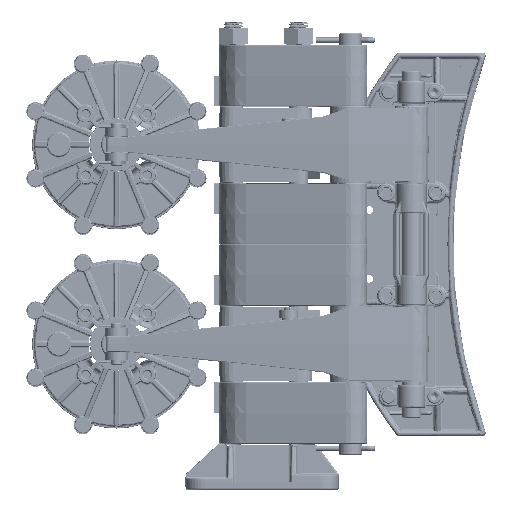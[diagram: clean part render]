
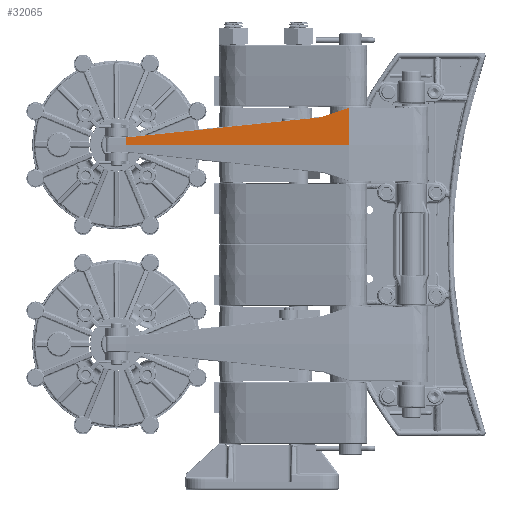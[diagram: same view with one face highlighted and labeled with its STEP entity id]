
A CAD part, top view. The second image highlights one B-rep face of the part: STEP entity #32065.
In plain terms, the highlighted planar face has unit normal (-0.091, 0.018, 0.996).
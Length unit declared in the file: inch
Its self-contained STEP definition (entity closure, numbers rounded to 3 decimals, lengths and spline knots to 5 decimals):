
#102 = FACE_OUTER_BOUND ( 'NONE', #312098, .T. ) ;
#15646 = VECTOR ( 'NONE', #111233, 39.37008 ) ;
#24683 = LINE ( 'NONE', #82167, #15646 ) ;
#25587 = VECTOR ( 'NONE', #257891, 39.37008 ) ;
#27995 =( BOUNDED_CURVE ( )  B_SPLINE_CURVE ( 3, ( #242447, #184469, #271527, #98478 ),
 .UNSPECIFIED., .F., .T. ) 
 B_SPLINE_CURVE_WITH_KNOTS ( ( 4, 4 ),
 ( 6.28254, 6.28321 ),
 .UNSPECIFIED. ) 
 CURVE ( )  GEOMETRIC_REPRESENTATION_ITEM ( )  RATIONAL_B_SPLINE_CURVE ( ( 1., 1., 1., 1. ) ) 
 REPRESENTATION_ITEM ( '' )  );
#30586 = ORIENTED_EDGE ( 'NONE', *, *, #244321, .T. ) ;
#32065 = ADVANCED_FACE ( 'NONE', ( #102 ), #305955, .T. ) ;
#40755 = CARTESIAN_POINT ( 'NONE',  ( -6.66061, 3.25, 3.19642 ) ) ;
#47214 = VECTOR ( 'NONE', #173085, 39.37008 ) ;
#60219 = ORIENTED_EDGE ( 'NONE', *, *, #295279, .F. ) ;
#63170 = VERTEX_POINT ( 'NONE', #73700 ) ;
#73700 = CARTESIAN_POINT ( 'NONE',  ( 0.62798, 3.25, 3.86435 ) ) ;
#82167 = CARTESIAN_POINT ( 'NONE',  ( 0.62798, 3.25022, 3.86435 ) ) ;
#98478 = CARTESIAN_POINT ( 'NONE',  ( -6.66035, 3.48035, 3.1924 ) ) ;
#99195 = DIRECTION ( 'NONE',  ( -0.001, -1., 0.017 ) ) ;
#102491 = LINE ( 'NONE', #228882, #25587 ) ;
#105342 = DIRECTION ( 'NONE',  ( 0.996, 0., 0.091 ) ) ;
#108780 = EDGE_CURVE ( 'NONE', #162615, #203401, #341747, .T. ) ;
#111233 = DIRECTION ( 'NONE',  ( 0., -1., 0.018 ) ) ;
#115056 = LINE ( 'NONE', #342418, #47214 ) ;
#123003 = LINE ( 'NONE', #278379, #276628 ) ;
#123138 = ORIENTED_EDGE ( 'NONE', *, *, #166865, .T. ) ;
#125955 = EDGE_CURVE ( 'NONE', #203401, #63170, #123003, .T. ) ;
#126395 = ORIENTED_EDGE ( 'NONE', *, *, #295337, .T. ) ;
#136723 = VERTEX_POINT ( 'NONE', #147788 ) ;
#147788 = CARTESIAN_POINT ( 'NONE',  ( -6.66035, 3.48036, 3.1924 ) ) ;
#162615 = VERTEX_POINT ( 'NONE', #300798 ) ;
#162971 = ORIENTED_EDGE ( 'NONE', *, *, #125955, .T. ) ;
#163233 = DIRECTION ( 'NONE',  ( -0.091, 0.017, 0.996 ) ) ;
#166865 = EDGE_CURVE ( 'NONE', #136723, #162615, #27995, .T. ) ;
#173085 = DIRECTION ( 'NONE',  ( -0.991, -0.102, -0.089 ) ) ;
#182628 = ORIENTED_EDGE ( 'NONE', *, *, #108780, .T. ) ;
#184469 = CARTESIAN_POINT ( 'NONE',  ( -6.66035, 3.48036, 3.1924 ) ) ;
#188164 = VECTOR ( 'NONE', #99195, 39.37008 ) ;
#198792 = AXIS2_PLACEMENT_3D ( 'NONE', #336348, #163233, #365433 ) ;
#203401 = VERTEX_POINT ( 'NONE', #40755 ) ;
#228882 = CARTESIAN_POINT ( 'NONE',  ( 0.22886, 4.31556, 3.8091 ) ) ;
#239192 = CARTESIAN_POINT ( 'NONE',  ( 0.6278, 4.44967, 3.84331 ) ) ;
#242447 = CARTESIAN_POINT ( 'NONE',  ( -6.66035, 3.48036, 3.1924 ) ) ;
#243178 = CARTESIAN_POINT ( 'NONE',  ( -6.6606, 3.25336, 3.19636 ) ) ;
#244321 = EDGE_CURVE ( 'NONE', #245906, #319089, #102491, .T. ) ;
#245906 = VERTEX_POINT ( 'NONE', #239192 ) ;
#257891 = DIRECTION ( 'NONE',  ( -0.945, -0.318, -0.081 ) ) ;
#271527 = CARTESIAN_POINT ( 'NONE',  ( -6.66035, 3.48035, 3.1924 ) ) ;
#276628 = VECTOR ( 'NONE', #105342, 39.37008 ) ;
#278379 = CARTESIAN_POINT ( 'NONE',  ( 0.58267, 3.25, 3.8602 ) ) ;
#295279 = EDGE_CURVE ( 'NONE', #245906, #63170, #24683, .T. ) ;
#295337 = EDGE_CURVE ( 'NONE', #319089, #136723, #115056, .T. ) ;
#300798 = CARTESIAN_POINT ( 'NONE',  ( -6.66035, 3.48035, 3.1924 ) ) ;
#305955 = PLANE ( 'NONE',  #198792 ) ;
#312098 = EDGE_LOOP ( 'NONE', ( #30586, #126395, #123138, #182628, #162971, #60219 ) ) ;
#319089 = VERTEX_POINT ( 'NONE', #353950 ) ;
#336348 = CARTESIAN_POINT ( 'NONE',  ( 0.58267, 3.25, 3.8602 ) ) ;
#341747 = LINE ( 'NONE', #243178, #188164 ) ;
#342418 = CARTESIAN_POINT ( 'NONE',  ( 0.48506, 4.21804, 3.83428 ) ) ;
#353950 = CARTESIAN_POINT ( 'NONE',  ( -0.30337, 4.13664, 3.76346 ) ) ;
#365433 = DIRECTION ( 'NONE',  ( 0.996, 0., 0.091 ) ) ;
